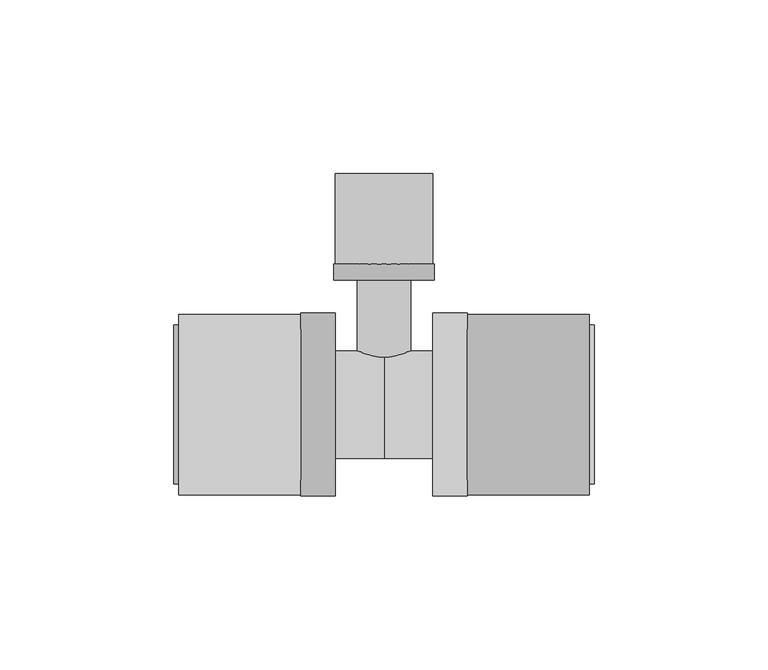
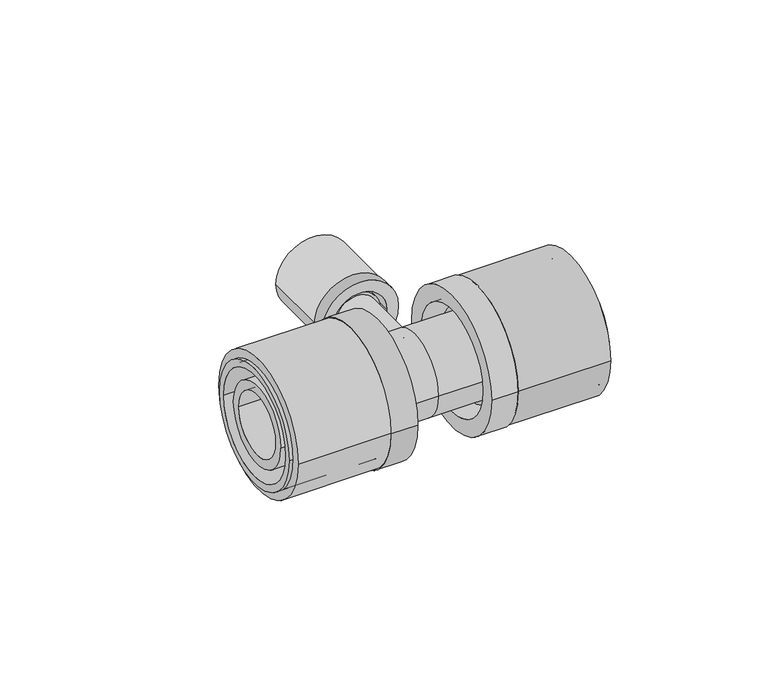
"""IFC4 building model written with IfcOpenShell, lengths in millimetres: pipe fitting geometry, FASTLOC_T-piece_LX : FSL T-Piece LX CZ."""

from ifc_helpers import new_model, si_unit, point, frame, origin, origin_2d, place, context, project, spatial, polyline, circle_curve, trimmed, segment, composite_curve, outline, extrude, source, transform, mapped, element, save
from ifc_brep_helpers import plane_surface, cylinder_surface, revolved_surface, advanced_brep


def pipe_fitting_68251213(model_context):
    return source(origin(), model_context, "Body", "SolidModel", [
        extrude(outline(composite_curve([segment(trimmed(circle_curve(origin_2d(), 26.0), [point((-26.0, 0.0))], [point((26.0, 0.0))], False, "CARTESIAN"), True, "CONTINUOUS"), segment(trimmed(circle_curve(origin_2d(), 26.0), [point((26.0, 0.0))], [point((-26.0, 0.0))], False, "CARTESIAN"), True, "CONTINUOUS")], self_intersect=False), holes=[composite_curve([segment(trimmed(circle_curve(origin_2d(), 21.25), [point((-21.25, 0.0))], [point((21.25, 0.0))], True, "CARTESIAN"), True, "CONTINUOUS"), segment(trimmed(circle_curve(origin_2d(), 21.25), [point((21.25, 0.0))], [point((-21.25, 0.0))], True, "CARTESIAN"), True, "CONTINUOUS")], self_intersect=False)]), frame((24.0, 0.0, 0.0), z_axis=(1.0, 0.0, 0.0), x_axis=(0.0, 1.0, 0.0)), (0.0, 0.0, 1.0), 35.0),
        advanced_brep(
        [(24.0, 26.3, 0.0), (24.0, -26.3, 0.0), (14.0, -26.3, 0.0), (14.0, 26.3, 0.0), (60.5, 22.9, 0.0), (60.5, -22.9, 0.0), (24.0, -22.9, 0.0), (24.0, 22.9, 0.0), (14.0, 20.2, 0.0), (14.0, -20.2, 0.0), (60.5, -20.2, 0.0), (60.5, 20.2, 0.0)],
        [
            (0, 1, circle_curve(frame((24.0, 0.0, 0.0), z_axis=(-1.0, 0.0, 0.0), x_axis=(0.0, -1.0, 0.0)), 26.3)),
            (1, 2),
            (2, 3, circle_curve(frame((14.0, 0.0, 0.0), z_axis=(1.0, 0.0, 0.0), x_axis=(0.0, -1.0, 0.0)), 26.3)),
            (3, 0),
            (4, 5, circle_curve(frame((60.5, 0.0, 0.0), z_axis=(-1.0, 0.0, 0.0), x_axis=(0.0, -1.0, 0.0)), 22.9)),
            (5, 6),
            (6, 7, circle_curve(frame((24.0, 0.0, 0.0), z_axis=(1.0, 0.0, 0.0), x_axis=(0.0, -1.0, 0.0)), 22.9)),
            (7, 4),
            (8, 9, circle_curve(frame((14.0, 0.0, 0.0), z_axis=(-1.0, 0.0, 0.0), x_axis=(0.0, -1.0, 0.0)), 20.2)),
            (9, 10),
            (10, 11, circle_curve(frame((60.5, 0.0, 0.0), z_axis=(1.0, 0.0, 0.0), x_axis=(0.0, -1.0, 0.0)), 20.2)),
            (11, 8),
            (1, 0, circle_curve(frame((24.0, 0.0, 0.0), z_axis=(-1.0, 0.0, 0.0), x_axis=(0.0, 1.0, 0.0)), 26.3)),
            (3, 2, circle_curve(frame((14.0, 0.0, 0.0), z_axis=(1.0, 0.0, 0.0), x_axis=(0.0, 1.0, 0.0)), 26.3)),
            (6, 7, circle_curve(frame((24.0, 0.0, 0.0), z_axis=(-1.0, 0.0, 0.0), x_axis=(0.0, 1.0, 0.0)), 22.9)),
            (5, 4, circle_curve(frame((60.5, 0.0, 0.0), z_axis=(-1.0, 0.0, 0.0), x_axis=(0.0, 1.0, 0.0)), 22.9)),
            (10, 11, circle_curve(frame((60.5, 0.0, 0.0), z_axis=(-1.0, 0.0, 0.0), x_axis=(0.0, 1.0, 0.0)), 20.2)),
            (9, 8, circle_curve(frame((14.0, 0.0, 0.0), z_axis=(-1.0, 0.0, 0.0), x_axis=(0.0, 1.0, 0.0)), 20.2)),
        ],
        [
            cylinder_surface(frame((14.0, 0.0, 0.0), z_axis=(1.0, 0.0, 0.0), x_axis=(0.0, -1.0, 0.0)), 26.3),
            cylinder_surface(frame((14.0, 0.0, 0.0), z_axis=(1.0, 0.0, 0.0), x_axis=(0.0, -1.0, 0.0)), 22.9),
            revolved_surface(polyline([(60.5, -20.2, 0.0), (14.0, -20.2, 0.0)]), (14.0, 0.0, 0.0), (1.0, 0.0, 0.0)),
            cylinder_surface(frame((14.0, 0.0, 0.0), z_axis=(1.0, 0.0, 0.0), x_axis=(0.0, 1.0, 0.0)), 26.3),
            plane_surface(frame((24.0, 0.0, 0.0), z_axis=(1.0, 0.0, 0.0), x_axis=(0.0, 1.0, 0.0))),
            cylinder_surface(frame((14.0, 0.0, 0.0), z_axis=(1.0, 0.0, 0.0), x_axis=(0.0, 1.0, 0.0)), 22.9),
            plane_surface(frame((60.5, 0.0, 0.0), z_axis=(1.0, 0.0, 0.0), x_axis=(0.0, 1.0, 0.0))),
            revolved_surface(polyline([(60.5, 20.2, 0.0), (14.0, 20.2, 0.0)]), (14.0, 0.0, 0.0), (1.0, 0.0, 0.0)),
            plane_surface(frame((14.0, 0.0, 0.0), z_axis=(-1.0, 0.0, 0.0), x_axis=(0.0, 1.0, 0.0))),
        ],
        [
            (0, [[1, 2, 3, 4]]),
            (1, [[5, 6, 7, 8]]),
            (2, [[9, 10, 11, 12]]),
            (3, [[13, -4, 14, -2]]),
            (4, [[-13, -1], [15, -7]]),
            (5, [[16, -8, -15, -6]]),
            (6, [[-16, -5], [17, -11]]),
            (7, [[18, -12, -17, -10]]),
            (8, [[-14, -3], [-18, -9]]),
        ],
    ),
        extrude(outline(composite_curve([segment(trimmed(circle_curve(origin_2d(), 26.0), [point((26.0, 0.0))], [point((-26.0, 0.0))], False, "CARTESIAN"), True, "CONTINUOUS"), segment(trimmed(circle_curve(origin_2d(), 26.0), [point((-26.0, 0.0))], [point((26.0, 0.0))], False, "CARTESIAN"), True, "CONTINUOUS")], self_intersect=False), holes=[composite_curve([segment(trimmed(circle_curve(origin_2d(), 21.25), [point((21.25, 0.0))], [point((-21.25, 0.0))], True, "CARTESIAN"), True, "CONTINUOUS"), segment(trimmed(circle_curve(origin_2d(), 21.25), [point((-21.25, 0.0))], [point((21.25, 0.0))], True, "CARTESIAN"), True, "CONTINUOUS")], self_intersect=False)]), frame((-59.0, 0.0, 0.0), z_axis=(1.0, 0.0, 0.0), x_axis=(0.0, 1.0, 0.0)), (0.0, 0.0, 1.0), 35.0),
        advanced_brep(
        [(-24.0, -26.3, 0.0), (-24.0, 26.3, 0.0), (-14.0, 26.3, 0.0), (-14.0, -26.3, 0.0), (-60.5, -22.9, 0.0), (-60.5, 22.9, 0.0), (-24.0, 22.9, 0.0), (-24.0, -22.9, 0.0), (-14.0, -20.2, 0.0), (-14.0, 20.2, 0.0), (-60.5, 20.2, 0.0), (-60.5, -20.2, 0.0)],
        [
            (0, 1, circle_curve(frame((-24.0, 0.0, 0.0), z_axis=(1.0, 0.0, 0.0), x_axis=(0.0, 1.0, 0.0)), 26.3)),
            (1, 2),
            (2, 3, circle_curve(frame((-14.0, 0.0, 0.0), z_axis=(-1.0, 0.0, 0.0), x_axis=(0.0, 1.0, 0.0)), 26.3)),
            (3, 0),
            (4, 5, circle_curve(frame((-60.5, 0.0, 0.0), z_axis=(1.0, 0.0, 0.0), x_axis=(0.0, 1.0, 0.0)), 22.9)),
            (5, 6),
            (6, 7, circle_curve(frame((-24.0, 0.0, 0.0), z_axis=(-1.0, 0.0, 0.0), x_axis=(0.0, 1.0, 0.0)), 22.9)),
            (7, 4),
            (8, 9, circle_curve(frame((-14.0, 0.0, 0.0), z_axis=(1.0, 0.0, 0.0), x_axis=(0.0, 1.0, 0.0)), 20.2)),
            (9, 10),
            (10, 11, circle_curve(frame((-60.5, 0.0, 0.0), z_axis=(-1.0, 0.0, 0.0), x_axis=(0.0, 1.0, 0.0)), 20.2)),
            (11, 8),
            (1, 0, circle_curve(frame((-24.0, 0.0, 0.0), z_axis=(1.0, 0.0, 0.0), x_axis=(0.0, -1.0, 0.0)), 26.3)),
            (3, 2, circle_curve(frame((-14.0, 0.0, 0.0), z_axis=(-1.0, 0.0, 0.0), x_axis=(0.0, -1.0, 0.0)), 26.3)),
            (6, 7, circle_curve(frame((-24.0, 0.0, 0.0), z_axis=(1.0, 0.0, 0.0), x_axis=(0.0, -1.0, 0.0)), 22.9)),
            (5, 4, circle_curve(frame((-60.5, 0.0, 0.0), z_axis=(1.0, 0.0, 0.0), x_axis=(0.0, -1.0, 0.0)), 22.9)),
            (10, 11, circle_curve(frame((-60.5, 0.0, 0.0), z_axis=(1.0, 0.0, 0.0), x_axis=(0.0, -1.0, 0.0)), 20.2)),
            (9, 8, circle_curve(frame((-14.0, 0.0, 0.0), z_axis=(1.0, 0.0, 0.0), x_axis=(0.0, -1.0, 0.0)), 20.2)),
        ],
        [
            cylinder_surface(frame((-14.0, 0.0, 0.0), z_axis=(-1.0, 0.0, 0.0), x_axis=(0.0, 1.0, 0.0)), 26.3),
            cylinder_surface(frame((-14.0, 0.0, 0.0), z_axis=(-1.0, 0.0, 0.0), x_axis=(0.0, 1.0, 0.0)), 22.9),
            revolved_surface(polyline([(-60.5, 20.2, 0.0), (-14.0, 20.2, 0.0)]), (-14.0, 0.0, 0.0), (-1.0, 0.0, 0.0)),
            cylinder_surface(frame((-14.0, 0.0, 0.0), z_axis=(-1.0, 0.0, 0.0), x_axis=(0.0, -1.0, 0.0)), 26.3),
            plane_surface(frame((-24.0, 0.0, 0.0), z_axis=(-1.0, 0.0, 0.0), x_axis=(0.0, -1.0, 0.0))),
            cylinder_surface(frame((-14.0, 0.0, 0.0), z_axis=(-1.0, 0.0, 0.0), x_axis=(0.0, -1.0, 0.0)), 22.9),
            plane_surface(frame((-60.5, 0.0, 0.0), z_axis=(-1.0, 0.0, 0.0), x_axis=(0.0, -1.0, 0.0))),
            revolved_surface(polyline([(-60.5, -20.2, 0.0), (-14.0, -20.2, 0.0)]), (-14.0, 0.0, 0.0), (-1.0, 0.0, 0.0)),
            plane_surface(frame((-14.0, 0.0, 0.0), z_axis=(1.0, 0.0, 0.0), x_axis=(0.0, -1.0, 0.0))),
        ],
        [
            (0, [[1, 2, 3, 4]]),
            (1, [[5, 6, 7, 8]]),
            (2, [[9, 10, 11, 12]]),
            (3, [[13, -4, 14, -2]]),
            (4, [[-13, -1], [15, -7]]),
            (5, [[16, -8, -15, -6]]),
            (6, [[-16, -5], [17, -11]]),
            (7, [[18, -12, -17, -10]]),
            (8, [[-14, -3], [-18, -9]]),
        ],
    ),
        extrude(outline(composite_curve([segment(trimmed(circle_curve(origin_2d(), 14.0), [point((0.0, 14.0))], [point((0.0, -14.0))], False, "CARTESIAN"), True, "CONTINUOUS"), segment(trimmed(circle_curve(origin_2d(), 14.0), [point((0.0, -14.0))], [point((0.0, 14.0))], False, "CARTESIAN"), True, "CONTINUOUS")], self_intersect=False), holes=[composite_curve([segment(trimmed(circle_curve(origin_2d(), 10.7), [point((0.0, 10.7))], [point((0.0, -10.7))], True, "CARTESIAN"), True, "CONTINUOUS"), segment(trimmed(circle_curve(origin_2d(), 10.7), [point((0.0, -10.7))], [point((0.0, 10.7))], True, "CARTESIAN"), True, "CONTINUOUS")], self_intersect=False)]), frame((0.0, 40.5, 0.0), z_axis=(0.0, 1.0, 0.0), x_axis=(0.0, 0.0, 1.0)), (0.0, 0.0, 1.0), 26.0),
        advanced_brep(
        [(-14.5, 40.5, 0.0), (14.5, 40.5, 0.0), (14.5, 35.8, 0.0), (-14.5, 35.8, 0.0), (-11.85, 57.5, 0.0), (11.85, 57.5, 0.0), (11.85, 40.5, 0.0), (-11.85, 40.5, 0.0), (-10.15, 35.8, 0.0), (10.15, 35.8, 0.0), (10.15, 57.5, 0.0), (-10.15, 57.5, 0.0)],
        [
            (0, 1, circle_curve(frame((0.0, 40.5, 0.0), z_axis=(0.0, -1.0, 0.0), x_axis=(1.0, 0.0, 0.0)), 14.5)),
            (1, 2),
            (2, 3, circle_curve(frame((0.0, 35.8, 0.0), z_axis=(0.0, 1.0, 0.0), x_axis=(1.0, 0.0, 0.0)), 14.5)),
            (3, 0),
            (4, 5, circle_curve(frame((0.0, 57.5, 0.0), z_axis=(0.0, -1.0, 0.0), x_axis=(1.0, 0.0, 0.0)), 11.85)),
            (5, 6),
            (6, 7, circle_curve(frame((0.0, 40.5, 0.0), z_axis=(0.0, 1.0, 0.0), x_axis=(1.0, 0.0, 0.0)), 11.85)),
            (7, 4),
            (8, 9, circle_curve(frame((0.0, 35.8, 0.0), z_axis=(0.0, -1.0, 0.0), x_axis=(1.0, 0.0, 0.0)), 10.15)),
            (9, 10),
            (10, 11, circle_curve(frame((0.0, 57.5, 0.0), z_axis=(0.0, 1.0, 0.0), x_axis=(1.0, 0.0, 0.0)), 10.15)),
            (11, 8),
            (1, 0, circle_curve(frame((0.0, 40.5, 0.0), z_axis=(0.0, -1.0, 0.0), x_axis=(-1.0, 0.0, 0.0)), 14.5)),
            (3, 2, circle_curve(frame((0.0, 35.8, 0.0), z_axis=(0.0, 1.0, 0.0), x_axis=(-1.0, 0.0, 0.0)), 14.5)),
            (6, 7, circle_curve(frame((0.0, 40.5, 0.0), z_axis=(0.0, -1.0, 0.0), x_axis=(-1.0, 0.0, 0.0)), 11.85)),
            (5, 4, circle_curve(frame((0.0, 57.5, 0.0), z_axis=(0.0, -1.0, 0.0), x_axis=(-1.0, 0.0, 0.0)), 11.85)),
            (10, 11, circle_curve(frame((0.0, 57.5, 0.0), z_axis=(0.0, -1.0, 0.0), x_axis=(-1.0, 0.0, 0.0)), 10.15)),
            (9, 8, circle_curve(frame((0.0, 35.8, 0.0), z_axis=(0.0, -1.0, 0.0), x_axis=(-1.0, 0.0, 0.0)), 10.15)),
        ],
        [
            cylinder_surface(frame((0.0, 35.8, 0.0), z_axis=(0.0, 1.0, 0.0), x_axis=(1.0, 0.0, 0.0)), 14.5),
            cylinder_surface(frame((0.0, 35.8, 0.0), z_axis=(0.0, 1.0, 0.0), x_axis=(1.0, 0.0, 0.0)), 11.85),
            revolved_surface(polyline([(10.15, 57.5, 0.0), (10.15, 35.8, 0.0)]), (0.0, 35.8, 0.0), (0.0, 1.0, 0.0)),
            cylinder_surface(frame((0.0, 35.8, 0.0), z_axis=(0.0, 1.0, 0.0), x_axis=(-1.0, 0.0, 0.0)), 14.5),
            plane_surface(frame((0.0, 40.5, 0.0), z_axis=(0.0, 1.0, 0.0), x_axis=(-1.0, 0.0, 0.0))),
            cylinder_surface(frame((0.0, 35.8, 0.0), z_axis=(0.0, 1.0, 0.0), x_axis=(-1.0, 0.0, 0.0)), 11.85),
            plane_surface(frame((0.0, 57.5, 0.0), z_axis=(0.0, 1.0, 0.0), x_axis=(-1.0, 0.0, 0.0))),
            revolved_surface(polyline([(-10.15, 57.5, 0.0), (-10.15, 35.8, 0.0)]), (0.0, 35.8, 0.0), (0.0, 1.0, 0.0)),
            plane_surface(frame((0.0, 35.8, 0.0), z_axis=(0.0, -1.0, 0.0), x_axis=(-1.0, 0.0, 0.0))),
        ],
        [
            (0, [[1, 2, 3, 4]]),
            (1, [[5, 6, 7, 8]]),
            (2, [[9, 10, 11, 12]]),
            (3, [[13, -4, 14, -2]]),
            (4, [[-13, -1], [15, -7]]),
            (5, [[16, -8, -15, -6]]),
            (6, [[-16, -5], [17, -11]]),
            (7, [[18, -12, -17, -10]]),
            (8, [[-14, -3], [-18, -9]]),
        ],
    ),
        advanced_brep(
        [(0.0, 15.5, 0.0), (0.0, -15.5, 0.0), (-20.3, -15.5, 0.0), (-20.3, 15.5, 0.0), (20.3, 15.5, 0.0), (20.3, -15.5, 0.0), (24.0, 17.2, 0.0), (24.0, -17.2, 0.0), (20.3, -17.2, 0.0), (20.3, 17.2, 0.0), (59.5, 15.5, 0.0), (59.5, -15.5, 0.0), (24.0, -15.5, 0.0), (24.0, 15.5, 0.0), (-24.0, 15.5, 0.0), (-24.0, -15.5, 0.0), (-59.5, -15.5, 0.0), (-59.5, 15.5, 0.0), (-20.3, 17.2, 0.0), (-20.3, -17.2, 0.0), (-24.0, -17.2, 0.0), (-24.0, 17.2, 0.0), (59.5, -11.95, 0.0), (59.5, 11.95, 0.0), (-59.5, 11.95, 0.0), (-59.5, -11.95, 0.0), (0.0, 11.95, 0.0), (0.0, -11.95, 0.0)],
        [
            (0, 1, circle_curve(frame((0.0, 0.0, 0.0), z_axis=(-1.0, 0.0, 0.0), x_axis=(0.0, -1.0, 0.0)), 15.5)),
            (1, 2),
            (2, 3, circle_curve(frame((-20.3, 0.0, 0.0), z_axis=(1.0, 0.0, 0.0), x_axis=(0.0, -1.0, 0.0)), 15.5)),
            (3, 0),
            (4, 5, circle_curve(frame((20.3, 0.0, 0.0), z_axis=(-1.0, 0.0, 0.0), x_axis=(0.0, -1.0, 0.0)), 15.5)),
            (5, 1),
            (0, 4),
            (6, 7, circle_curve(frame((24.0, 0.0, 0.0), z_axis=(-1.0, 0.0, 0.0), x_axis=(0.0, -1.0, 0.0)), 17.2)),
            (7, 8),
            (8, 9, circle_curve(frame((20.3, 0.0, 0.0), z_axis=(1.0, 0.0, 0.0), x_axis=(0.0, -1.0, 0.0)), 17.2)),
            (9, 6),
            (10, 11, circle_curve(frame((59.5, 0.0, 0.0), z_axis=(-1.0, 0.0, 0.0), x_axis=(0.0, -1.0, 0.0)), 15.5)),
            (11, 12),
            (12, 13, circle_curve(frame((24.0, 0.0, 0.0), z_axis=(1.0, 0.0, 0.0), x_axis=(0.0, -1.0, 0.0)), 15.5)),
            (13, 10),
            (14, 15, circle_curve(frame((-24.0, 0.0, 0.0), z_axis=(-1.0, 0.0, 0.0), x_axis=(0.0, -1.0, 0.0)), 15.5)),
            (15, 16),
            (16, 17, circle_curve(frame((-59.5, 0.0, 0.0), z_axis=(1.0, 0.0, 0.0), x_axis=(0.0, -1.0, 0.0)), 15.5)),
            (17, 14),
            (18, 19, circle_curve(frame((-20.3, 0.0, 0.0), z_axis=(-1.0, 0.0, 0.0), x_axis=(0.0, -1.0, 0.0)), 17.2)),
            (19, 20),
            (20, 21, circle_curve(frame((-24.0, 0.0, 0.0), z_axis=(1.0, 0.0, 0.0), x_axis=(0.0, -1.0, 0.0)), 17.2)),
            (21, 18),
            (18, 19, circle_curve(frame((-20.3, 0.0, 0.0), z_axis=(1.0, 0.0, 0.0), x_axis=(0.0, 1.0, 0.0)), 17.2)),
            (2, 3, circle_curve(frame((-20.3, 0.0, 0.0), z_axis=(-1.0, 0.0, 0.0), x_axis=(0.0, 1.0, 0.0)), 15.5)),
            (1, 0, circle_curve(frame((0.0, 0.0, 0.0), z_axis=(-1.0, 0.0, 0.0), x_axis=(0.0, 1.0, 0.0)), 15.5)),
            (5, 4, circle_curve(frame((20.3, 0.0, 0.0), z_axis=(-1.0, 0.0, 0.0), x_axis=(0.0, 1.0, 0.0)), 15.5)),
            (8, 9, circle_curve(frame((20.3, 0.0, 0.0), z_axis=(-1.0, 0.0, 0.0), x_axis=(0.0, 1.0, 0.0)), 17.2)),
            (7, 6, circle_curve(frame((24.0, 0.0, 0.0), z_axis=(-1.0, 0.0, 0.0), x_axis=(0.0, 1.0, 0.0)), 17.2)),
            (12, 13, circle_curve(frame((24.0, 0.0, 0.0), z_axis=(-1.0, 0.0, 0.0), x_axis=(0.0, 1.0, 0.0)), 15.5)),
            (11, 10, circle_curve(frame((59.5, 0.0, 0.0), z_axis=(-1.0, 0.0, 0.0), x_axis=(0.0, 1.0, 0.0)), 15.5)),
            (22, 23, circle_curve(frame((59.5, 0.0, 0.0), z_axis=(-1.0, 0.0, 0.0), x_axis=(0.0, 1.0, 0.0)), 11.95)),
            (23, 22, circle_curve(frame((59.5, 0.0, 0.0), z_axis=(-1.0, 0.0, 0.0), x_axis=(0.0, -1.0, 0.0)), 11.95)),
            (16, 17, circle_curve(frame((-59.5, 0.0, 0.0), z_axis=(-1.0, 0.0, 0.0), x_axis=(0.0, 1.0, 0.0)), 15.5)),
            (24, 25, circle_curve(frame((-59.5, 0.0, 0.0), z_axis=(1.0, 0.0, 0.0), x_axis=(0.0, 1.0, 0.0)), 11.95)),
            (25, 24, circle_curve(frame((-59.5, 0.0, 0.0), z_axis=(1.0, 0.0, 0.0), x_axis=(0.0, -1.0, 0.0)), 11.95)),
            (15, 14, circle_curve(frame((-24.0, 0.0, 0.0), z_axis=(-1.0, 0.0, 0.0), x_axis=(0.0, 1.0, 0.0)), 15.5)),
            (20, 21, circle_curve(frame((-24.0, 0.0, 0.0), z_axis=(-1.0, 0.0, 0.0), x_axis=(0.0, 1.0, 0.0)), 17.2)),
            (26, 27, circle_curve(frame((0.0, 0.0, 0.0), z_axis=(-1.0, 0.0, 0.0), x_axis=(0.0, -1.0, 0.0)), 11.95)),
            (27, 22),
            (23, 26),
            (25, 27),
            (26, 24),
            (27, 26, circle_curve(frame((0.0, 0.0, 0.0), z_axis=(-1.0, 0.0, 0.0), x_axis=(0.0, 1.0, 0.0)), 11.95)),
        ],
        [
            cylinder_surface(frame((0.0, 0.0, 0.0), z_axis=(1.0, 0.0, 0.0), x_axis=(0.0, -1.0, 0.0)), 15.5),
            cylinder_surface(frame((0.0, 0.0, 0.0), z_axis=(1.0, 0.0, 0.0), x_axis=(0.0, -1.0, 0.0)), 17.2),
            plane_surface(frame((-20.3, 0.0, 0.0), z_axis=(1.0, 0.0, 0.0), x_axis=(0.0, 1.0, 0.0))),
            cylinder_surface(frame((0.0, 0.0, 0.0), z_axis=(1.0, 0.0, 0.0), x_axis=(0.0, 1.0, 0.0)), 15.5),
            plane_surface(frame((20.3, 0.0, 0.0), z_axis=(-1.0, 0.0, 0.0), x_axis=(0.0, 1.0, 0.0))),
            cylinder_surface(frame((0.0, 0.0, 0.0), z_axis=(1.0, 0.0, 0.0), x_axis=(0.0, 1.0, 0.0)), 17.2),
            plane_surface(frame((24.0, 0.0, 0.0), z_axis=(1.0, 0.0, 0.0), x_axis=(0.0, 1.0, 0.0))),
            plane_surface(frame((59.5, 0.0, 0.0), z_axis=(1.0, 0.0, 0.0), x_axis=(0.0, 1.0, 0.0))),
            plane_surface(frame((-59.5, 0.0, 0.0), z_axis=(-1.0, 0.0, 0.0), x_axis=(0.0, 1.0, 0.0))),
            plane_surface(frame((-24.0, 0.0, 0.0), z_axis=(-1.0, 0.0, 0.0), x_axis=(0.0, 1.0, 0.0))),
            revolved_surface(polyline([(59.5, -11.95, 0.0), (0.0, -11.95, 0.0)]), (0.0, 0.0, 0.0), (1.0, 0.0, 0.0)),
            revolved_surface(polyline([(0.0, -11.95, 0.0), (-59.5, -11.95, 0.0)]), (0.0, 0.0, 0.0), (1.0, 0.0, 0.0)),
            revolved_surface(polyline([(59.5, 11.95, 0.0), (0.0, 11.95, 0.0)]), (0.0, 0.0, 0.0), (1.0, 0.0, 0.0)),
            revolved_surface(polyline([(0.0, 11.95, 0.0), (-59.5, 11.95, 0.0)]), (0.0, 0.0, 0.0), (1.0, 0.0, 0.0)),
        ],
        [
            (0, [[1, 2, 3, 4]]),
            (0, [[5, 6, -1, 7]]),
            (1, [[8, 9, 10, 11]]),
            (0, [[12, 13, 14, 15]]),
            (0, [[16, 17, 18, 19]]),
            (1, [[20, 21, 22, 23]]),
            (2, [[24, -20], [25, -3]]),
            (3, [[26, -4, -25, -2]]),
            (3, [[27, -7, -26, -6]]),
            (4, [[28, -10], [-27, -5]]),
            (5, [[29, -11, -28, -9]]),
            (6, [[-29, -8], [30, -14]]),
            (3, [[31, -15, -30, -13]]),
            (7, [[-31, -12], [32, 33]]),
            (8, [[34, -18], [35, 36]]),
            (3, [[37, -19, -34, -17]]),
            (9, [[38, -22], [-37, -16]]),
            (5, [[-24, -23, -38, -21]]),
            (10, [[39, 40, -33, 41]]),
            (11, [[-36, 42, -39, 43]]),
            (12, [[44, -41, -32, -40]]),
            (13, [[-35, -43, -44, -42]]),
        ],
    ),
        advanced_brep(
        [(5.75, 57.9, 0.0), (-5.75, 57.9, 0.0), (-5.75, 0.0, 0.0), (5.75, 0.0, 0.0), (7.75, 0.0, 0.0), (-7.75, 0.0, 0.0), (-7.75, 37.83, 0.0), (7.75, 37.83, 0.0), (8.8, 37.83, 0.0), (-8.8, 37.83, 0.0), (-8.8, 40.5, 0.0), (8.8, 40.5, 0.0), (7.75, 40.5, 0.0), (-7.75, 40.5, 0.0), (-7.75, 57.9, 0.0), (7.75, 57.9, 0.0)],
        [
            (0, 1, circle_curve(frame((0.0, 57.9, 0.0), z_axis=(0.0, 1.0, 0.0), x_axis=(-1.0, 0.0, 0.0)), 5.75)),
            (1, 2),
            (2, 3, circle_curve(frame((0.0, 0.0, 0.0), z_axis=(0.0, -1.0, 0.0), x_axis=(-1.0, 0.0, 0.0)), 5.75)),
            (3, 0),
            (4, 5, circle_curve(frame((0.0, 0.0, 0.0), z_axis=(0.0, 1.0, 0.0), x_axis=(-1.0, 0.0, 0.0)), 7.75)),
            (5, 6),
            (6, 7, circle_curve(frame((0.0, 37.83, 0.0), z_axis=(0.0, -1.0, 0.0), x_axis=(-1.0, 0.0, 0.0)), 7.75)),
            (7, 4),
            (8, 9, circle_curve(frame((0.0, 37.83, 0.0), z_axis=(0.0, 1.0, 0.0), x_axis=(-1.0, 0.0, 0.0)), 8.8)),
            (9, 10),
            (10, 11, circle_curve(frame((0.0, 40.5, 0.0), z_axis=(0.0, -1.0, 0.0), x_axis=(-1.0, 0.0, 0.0)), 8.8)),
            (11, 8),
            (12, 13, circle_curve(frame((0.0, 40.5, 0.0), z_axis=(0.0, 1.0, 0.0), x_axis=(-1.0, 0.0, 0.0)), 7.75)),
            (13, 14),
            (14, 15, circle_curve(frame((0.0, 57.9, 0.0), z_axis=(0.0, -1.0, 0.0), x_axis=(-1.0, 0.0, 0.0)), 7.75)),
            (15, 12),
            (1, 0, circle_curve(frame((0.0, 57.9, 0.0), z_axis=(0.0, 1.0, 0.0), x_axis=(1.0, 0.0, 0.0)), 5.75)),
            (3, 2, circle_curve(frame((0.0, 0.0, 0.0), z_axis=(0.0, -1.0, 0.0), x_axis=(1.0, 0.0, 0.0)), 5.75)),
            (4, 5, circle_curve(frame((0.0, 0.0, 0.0), z_axis=(0.0, -1.0, 0.0), x_axis=(1.0, 0.0, 0.0)), 7.75)),
            (7, 6, circle_curve(frame((0.0, 37.83, 0.0), z_axis=(0.0, -1.0, 0.0), x_axis=(1.0, 0.0, 0.0)), 7.75)),
            (8, 9, circle_curve(frame((0.0, 37.83, 0.0), z_axis=(0.0, -1.0, 0.0), x_axis=(1.0, 0.0, 0.0)), 8.8)),
            (11, 10, circle_curve(frame((0.0, 40.5, 0.0), z_axis=(0.0, -1.0, 0.0), x_axis=(1.0, 0.0, 0.0)), 8.8)),
            (12, 13, circle_curve(frame((0.0, 40.5, 0.0), z_axis=(0.0, -1.0, 0.0), x_axis=(1.0, 0.0, 0.0)), 7.75)),
            (15, 14, circle_curve(frame((0.0, 57.9, 0.0), z_axis=(0.0, -1.0, 0.0), x_axis=(1.0, 0.0, 0.0)), 7.75)),
        ],
        [
            revolved_surface(polyline([(-5.75, 0.0, 0.0), (-5.75, 57.9, 0.0)]), (0.0, 0.0, 0.0), (0.0, -1.0, 0.0)),
            cylinder_surface(frame((0.0, 0.0, 0.0), z_axis=(0.0, -1.0, 0.0), x_axis=(-1.0, 0.0, 0.0)), 7.75),
            cylinder_surface(frame((0.0, 0.0, 0.0), z_axis=(0.0, -1.0, 0.0), x_axis=(-1.0, 0.0, 0.0)), 8.8),
            revolved_surface(polyline([(5.75, 0.0, 0.0), (5.75, 57.9, 0.0)]), (0.0, 0.0, 0.0), (0.0, -1.0, 0.0)),
            plane_surface(frame((0.0, 0.0, 0.0), z_axis=(0.0, -1.0, 0.0), x_axis=(1.0, 0.0, 0.0))),
            cylinder_surface(frame((0.0, 0.0, 0.0), z_axis=(0.0, -1.0, 0.0), x_axis=(1.0, 0.0, 0.0)), 7.75),
            plane_surface(frame((0.0, 37.83, 0.0), z_axis=(0.0, -1.0, 0.0), x_axis=(1.0, 0.0, 0.0))),
            cylinder_surface(frame((0.0, 0.0, 0.0), z_axis=(0.0, -1.0, 0.0), x_axis=(1.0, 0.0, 0.0)), 8.8),
            plane_surface(frame((0.0, 40.5, 0.0), z_axis=(0.0, 1.0, 0.0), x_axis=(1.0, 0.0, 0.0))),
            plane_surface(frame((0.0, 57.9, 0.0), z_axis=(0.0, 1.0, 0.0), x_axis=(1.0, 0.0, 0.0))),
        ],
        [
            (0, [[1, 2, 3, 4]]),
            (1, [[5, 6, 7, 8]]),
            (2, [[9, 10, 11, 12]]),
            (1, [[13, 14, 15, 16]]),
            (3, [[17, -4, 18, -2]]),
            (4, [[19, -5], [-18, -3]]),
            (5, [[-19, -8, 20, -6]]),
            (6, [[21, -9], [-20, -7]]),
            (7, [[-21, -12, 22, -10]]),
            (8, [[-22, -11], [23, -13]]),
            (5, [[-23, -16, 24, -14]]),
            (9, [[-24, -15], [-17, -1]]),
        ],
    ),
    ])


if __name__ == "__main__":
    model = new_model("IFC4")
    model_context = context("Model", 3, world=origin())
    ifc_project = project(units=[si_unit("LENGTHUNIT", "METRE", prefix="MILLI")], contexts=[model_context])
    site = spatial("IfcSite", under=ifc_project)
    building = spatial("IfcBuilding", under=site)
    placement = place(None, origin())
    pipe_fitting_shape = pipe_fitting_68251213(model_context)
    element("IfcPipeFitting", 1, ObjectType="FASTLOC_T-piece_LX : FSL T-Piece LX CZ", at=placement, inside=building, context=model_context, shape_type="MappedRepresentation", body=[
        mapped(pipe_fitting_shape, transform((0.0, 0.0, 0.0), x_axis=(1.0, 0.0, 0.0), y_axis=(0.0, 1.0, 0.0), z_axis=(0.0, 0.0, 1.0))),
    ])
    save(model, "model.ifc")
